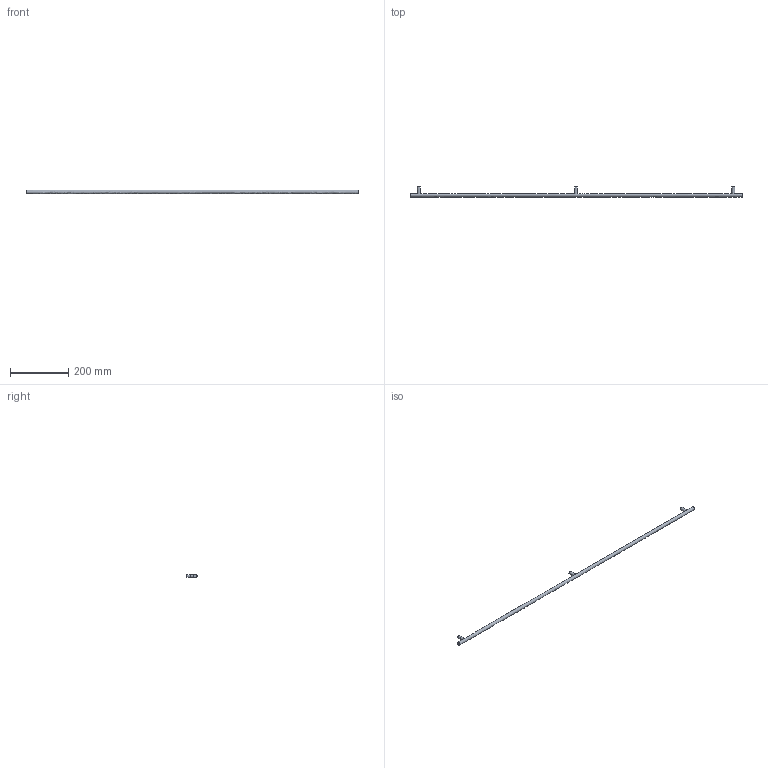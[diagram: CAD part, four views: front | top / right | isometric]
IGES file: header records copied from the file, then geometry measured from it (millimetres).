
Start section: Data from Parasolid IGES Translator 15.0.47, Copyright(c) 2006 Siemens P LM Software. All Rights Reserved.
Global section: file name: 9070269.igs; native system:  By UGS Corp.; preprocessor: XPlus GENERIC/IGES 3.0; author: Noname; organization: Noname; date: 20140122.183419; units: millimetre
Bounding box: 1140 x 35 x 12 mm (x, y, z)
Surface area: 46024 mm2 (no closed solid volume)
Topology: 0 solids, 0 shells, 15 faces, 42 edges, 28 vertices
Faces by surface type: extrusion 8, revolution 7
